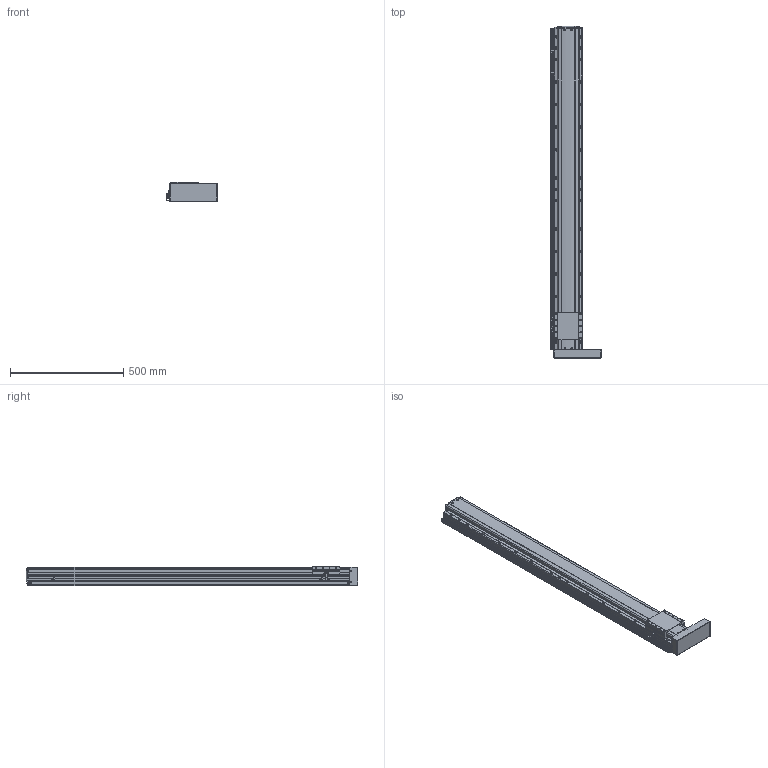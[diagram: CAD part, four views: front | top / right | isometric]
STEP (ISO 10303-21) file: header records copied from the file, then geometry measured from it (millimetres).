
FILE_DESCRIPTION(('STEP AP214'),'1');
FILE_NAME('Z:/Web/3D/PSA125/STP/PSA125-1200 (3D)/PSA125ㅁㅁ-1200PR+3SL.stp','2014-06-23T05:59:12',(' '),(' '),'Spatial InterOp 3D',' ',' ');
FILE_SCHEMA(('automotive_design'));
Length unit declared in the file: millimetre
Products named in the file (41): 스크루 : Round - M4.0 x 10.0; RRCV-PA120; SLIDE; BASE; FRCV-PA120-1(기준 뿔 제거); RR1500; 스크루 : Round - M4.0 x 6.0; 너트 : Square - M10.0 x 220.7419; BTCV - 60A; 스크루 : Round - M3.0 x 6.0; EE-SX674; SBK-SX674-352; M3.0 x 6.0; SRL-16x17-380L; SGD-PA95; 스크루 : Round - M3.0 x 8.0
Bounding box: 225.06 x 1468.6 x 86 mm (x, y, z)
Volume: 12646637.1 mm3; surface area: 1122932.1 mm2
Topology: 41 solids, 41 shells, 2583 faces, 6893 edges, 4406 vertices
Faces by surface type: plane 1423, cylinder 772, cone 268, sphere 64, bspline 31, torus 25
Entity records: 103176 total; most frequent: CARTESIAN_POINT 16735, DIRECTION 13789, ORIENTED_EDGE 13462, EDGE_CURVE 6731, AXIS2_PLACEMENT_3D 4665, LINE 4459, VECTOR 4459, VERTEX_POINT 4406
